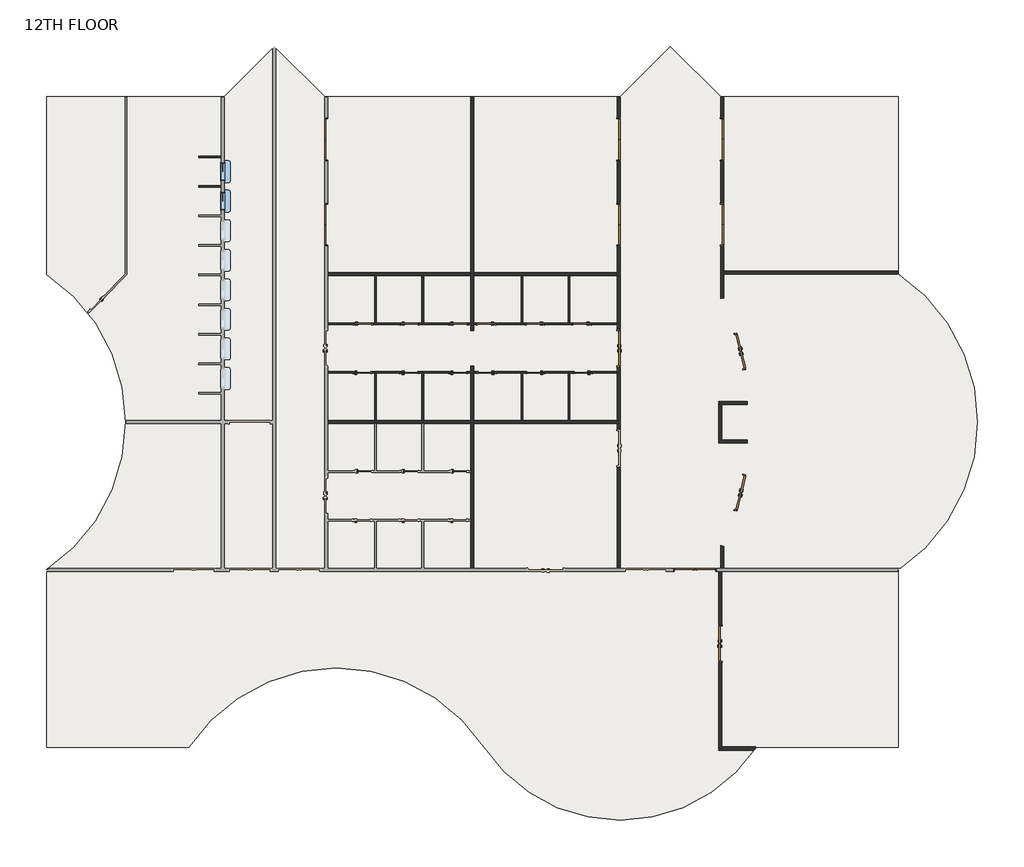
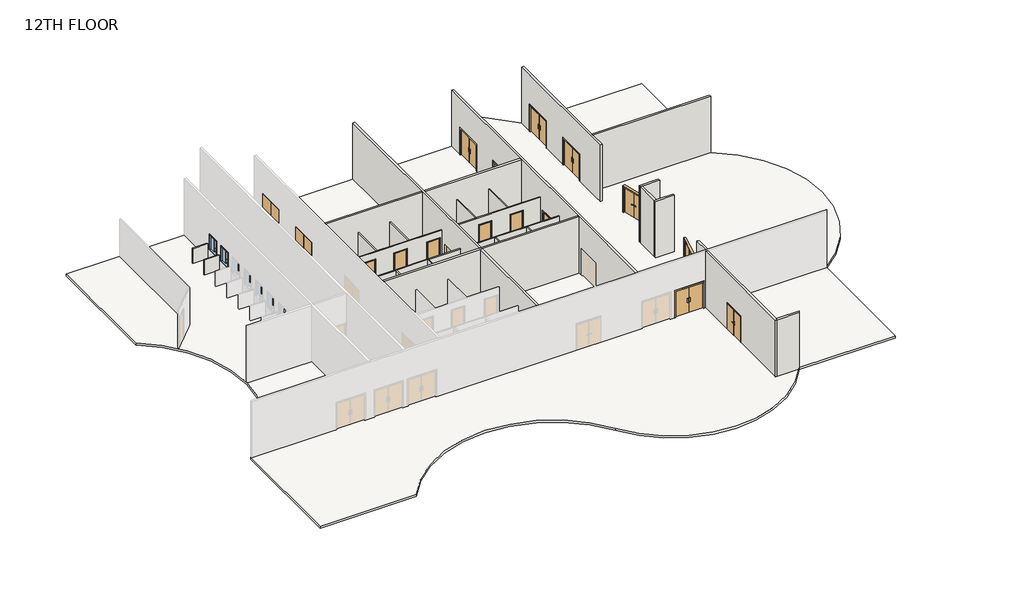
# One storey, part 2 of 2: 26 walls, 23 doors, 2 windows, 1 slab.
"""IFC4 building model written with IfcOpenShell, lengths in millimetres."""

from ifc_helpers import new_model, si_unit, point, frame, frame_2d, origin, place, context, project, spatial, polyline, circle_curve, trimmed, segment, composite_curve, outline, extrude, faceted_brep, transform, mapped, element, save
from ifc_brep_helpers import plane_surface, cylinder_surface, advanced_brep
from components import door_2f250f70, door_df8e76c5, door_0b13e4d9, door_b3a27a16, door_979b1b8c, door_f8b587be, pass_thru_4x3_19d81059

model = new_model("IFC4")

# Units and contexts
model_context = context("Model", 3, world=origin())
ifc_project = project(units=[si_unit("LENGTHUNIT", "METRE", prefix="MILLI")], contexts=[model_context])

# Site, building, storey
site = spatial("IfcSite", under=ifc_project)
building = spatial("IfcBuilding", under=site)
storey = spatial("IfcBuildingStorey", under=building, Name="12TH FLOOR", Elevation=54864.0)

# Doors
placement = place(None, origin())
door_shape = door_2f250f70(model_context)
element("IfcDoor", 1, ObjectType="Door-Passage-Double-Flush : 72\" x 82\"", at=placement, inside=storey, context=model_context, shape_type="MappedRepresentation", body=[
    mapped(door_shape, transform((35885.2621514, 20561.4429091, 54864.0), x_axis=(0.23975975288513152, -0.9708322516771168, 0.0), y_axis=(0.9708322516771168, 0.23975975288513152, 0.0), z_axis=(0.0, 0.0, 1.0))),
])
element("IfcDoor", 2, ObjectType="Door-Passage-Double-Flush : 72\" x 82\"", at=placement, inside=storey, context=model_context, shape_type="MappedRepresentation", body=[
    mapped(door_shape, transform((34887.5089577, 5494.3375, 54864.0), x_axis=(0.0, 1.0, 0.0), y_axis=(-1.0, 0.0, 0.0), z_axis=(0.0, 0.0, 1.0))),
])
door_2_shape = door_df8e76c5(model_context)
element("IfcDoor", 3, ObjectType="Door-Passage-Double-Flush : 72\" x 82\"", at=placement, inside=storey, context=model_context, shape_type="MappedRepresentation", body=[
    mapped(door_2_shape, transform((35886.7385063, 13277.3403388, 54864.0), x_axis=(0.23936619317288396, 0.9709293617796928, 0.0), y_axis=(-0.9709293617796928, 0.23936619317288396, 0.0), z_axis=(0.0, 0.0, 1.0))),
])
element("IfcDoor", 4, ObjectType="Door-Passage-Double-Flush : 72\" x 82\"", at=placement, inside=storey, context=model_context, shape_type="MappedRepresentation", body=[
    mapped(door_2_shape, transform((29628.0650257, 20729.575, 54864.0), x_axis=(0.0, 1.0, 0.0), y_axis=(-1.0, 0.0, 0.0), z_axis=(0.0, 0.0, 1.0))),
])
door_3_shape = door_0b13e4d9(model_context)
element("IfcDoor", 5, ObjectType="Door-Passage-Double-Flush-Dbl_Acting : 84\" x 84\"", at=placement, inside=storey, context=model_context, shape_type="MappedRepresentation", body=[
    mapped(door_3_shape, transform((33564.0300515, 9293.225, 54864.0), x_axis=(-1.0, 0.0, 0.0), y_axis=(0.0, -1.0, 0.0), z_axis=(0.0, 0.0, 1.0))),
])
element("IfcDoor", 6, ObjectType="Door-Passage-Double-Flush-Dbl_Acting : 84\" x 84\"", at=placement, inside=storey, context=model_context, shape_type="MappedRepresentation", body=[
    mapped(door_3_shape, transform((29628.0650257, 31499.175, 54864.0), x_axis=(0.0, 1.0, 0.0), y_axis=(-1.0, 0.0, 0.0), z_axis=(0.0, 0.0, 1.0))),
])
element("IfcDoor", 7, ObjectType="Door-Passage-Double-Flush-Dbl_Acting : 84\" x 84\"", at=placement, inside=storey, context=model_context, shape_type="MappedRepresentation", body=[
    mapped(door_3_shape, transform((29628.0650257, 27101.8, 54864.0), x_axis=(0.0, 1.0, 0.0), y_axis=(-1.0, 0.0, 0.0), z_axis=(0.0, 0.0, 1.0))),
])
door_4_shape = door_b3a27a16(model_context)
element("IfcDoor", 8, ObjectType="Door-Passage-Double-Flush-Dbl_Acting : 84\" x 84\"", at=placement, inside=storey, context=model_context, shape_type="MappedRepresentation", body=[
    mapped(door_4_shape, transform((14556.3400257, 31499.175, 54864.0), x_axis=(0.0, 1.0, 0.0), y_axis=(-1.0, 0.0, 0.0), z_axis=(0.0, 0.0, 1.0))),
])
element("IfcDoor", 9, ObjectType="Door-Passage-Double-Flush-Dbl_Acting : 84\" x 84\"", at=placement, inside=storey, context=model_context, shape_type="MappedRepresentation", body=[
    mapped(door_4_shape, transform((14556.3400257, 27101.8, 54864.0), x_axis=(0.0, 1.0, 0.0), y_axis=(-1.0, 0.0, 0.0), z_axis=(0.0, 0.0, 1.0))),
])
element("IfcDoor", 10, ObjectType="Door-Passage-Double-Flush-Dbl_Acting : 84\" x 84\"", at=placement, inside=storey, context=model_context, shape_type="MappedRepresentation", body=[
    mapped(door_4_shape, transform((34956.2675515, 31499.175, 54864.0), x_axis=(0.0, -1.0, 0.0), y_axis=(1.0, 0.0, 0.0), z_axis=(0.0, 0.0, 1.0))),
])
element("IfcDoor", 11, ObjectType="Door-Passage-Double-Flush-Dbl_Acting : 84\" x 84\"", at=placement, inside=storey, context=model_context, shape_type="MappedRepresentation", body=[
    mapped(door_4_shape, transform((34956.2675515, 27101.8, 54864.0), x_axis=(0.0, -1.0, 0.0), y_axis=(1.0, 0.0, 0.0), z_axis=(0.0, 0.0, 1.0))),
])
door_5_shape = door_979b1b8c(model_context)
element("IfcDoor", 12, ObjectType="Door-Passage-Single-Flush : 36\" x 96\"", at=placement, inside=storey, context=model_context, shape_type="MappedRepresentation", body=[
    mapped(door_5_shape, transform((16456.5775257, 21977.35, 54864.0), x_axis=(1.0, 0.0, 0.0), y_axis=(0.0, 1.0, 0.0), z_axis=(0.0, 0.0, 1.0))),
])
element("IfcDoor", 13, ObjectType="Door-Passage-Single-Flush : 36\" x 96\"", at=placement, inside=storey, context=model_context, shape_type="MappedRepresentation", body=[
    mapped(door_5_shape, transform((18855.2900257, 21977.35, 54864.0), x_axis=(1.0, 0.0, 0.0), y_axis=(0.0, 1.0, 0.0), z_axis=(0.0, 0.0, 1.0))),
])
element("IfcDoor", 14, ObjectType="Door-Passage-Single-Flush : 36\" x 96\"", at=placement, inside=storey, context=model_context, shape_type="MappedRepresentation", body=[
    mapped(door_5_shape, transform((21373.0650257, 21977.35, 54864.0), x_axis=(1.0, 0.0, 0.0), y_axis=(0.0, 1.0, 0.0), z_axis=(0.0, 0.0, 1.0))),
])
element("IfcDoor", 15, ObjectType="Door-Passage-Single-Flush : 36\" x 96\"", at=placement, inside=storey, context=model_context, shape_type="MappedRepresentation", body=[
    mapped(door_5_shape, transform((27778.6275257, 19481.8, 54864.0), x_axis=(-1.0, 0.0, 0.0), y_axis=(0.0, -1.0, 0.0), z_axis=(0.0, 0.0, 1.0))),
])
element("IfcDoor", 16, ObjectType="Door-Passage-Single-Flush : 36\" x 96\"", at=placement, inside=storey, context=model_context, shape_type="MappedRepresentation", body=[
    mapped(door_5_shape, transform((25348.1650257, 19481.8, 54864.0), x_axis=(-1.0, 0.0, 0.0), y_axis=(0.0, -1.0, 0.0), z_axis=(0.0, 0.0, 1.0))),
])
element("IfcDoor", 17, ObjectType="Door-Passage-Single-Flush : 36\" x 96\"", at=placement, inside=storey, context=model_context, shape_type="MappedRepresentation", body=[
    mapped(door_5_shape, transform((22830.3900257, 19481.8, 54864.0), x_axis=(-1.0, 0.0, 0.0), y_axis=(0.0, -1.0, 0.0), z_axis=(0.0, 0.0, 1.0))),
])
door_6_shape = door_f8b587be(model_context)
element("IfcDoor", 18, ObjectType="Door-Passage-Single-Flush : 36\" x 96\"", at=placement, inside=storey, context=model_context, shape_type="MappedRepresentation", body=[
    mapped(door_6_shape, transform((16405.7775257, 19481.8, 54864.0), x_axis=(1.0, 0.0, 0.0), y_axis=(0.0, 1.0, 0.0), z_axis=(0.0, 0.0, 1.0))),
])
element("IfcDoor", 19, ObjectType="Door-Passage-Single-Flush : 36\" x 96\"", at=placement, inside=storey, context=model_context, shape_type="MappedRepresentation", body=[
    mapped(door_6_shape, transform((18836.2400257, 19481.8, 54864.0), x_axis=(1.0, 0.0, 0.0), y_axis=(0.0, 1.0, 0.0), z_axis=(0.0, 0.0, 1.0))),
])
element("IfcDoor", 20, ObjectType="Door-Passage-Single-Flush : 36\" x 96\"", at=placement, inside=storey, context=model_context, shape_type="MappedRepresentation", body=[
    mapped(door_6_shape, transform((21354.0150257, 19481.8, 54864.0), x_axis=(1.0, 0.0, 0.0), y_axis=(0.0, 1.0, 0.0), z_axis=(0.0, 0.0, 1.0))),
])
element("IfcDoor", 21, ObjectType="Door-Passage-Single-Flush : 36\" x 96\"", at=placement, inside=storey, context=model_context, shape_type="MappedRepresentation", body=[
    mapped(door_6_shape, transform((27727.8275257, 21977.35, 54864.0), x_axis=(-1.0, 0.0, 0.0), y_axis=(0.0, -1.0, 0.0), z_axis=(0.0, 0.0, 1.0))),
])
element("IfcDoor", 22, ObjectType="Door-Passage-Single-Flush : 36\" x 96\"", at=placement, inside=storey, context=model_context, shape_type="MappedRepresentation", body=[
    mapped(door_6_shape, transform((25329.1150257, 21977.35, 54864.0), x_axis=(-1.0, 0.0, 0.0), y_axis=(0.0, -1.0, 0.0), z_axis=(0.0, 0.0, 1.0))),
])
element("IfcDoor", 23, ObjectType="Door-Passage-Single-Flush : 36\" x 96\"", at=placement, inside=storey, context=model_context, shape_type="MappedRepresentation", body=[
    mapped(door_6_shape, transform((22811.3400257, 21977.35, 54864.0), x_axis=(-1.0, 0.0, 0.0), y_axis=(0.0, -1.0, 0.0), z_axis=(0.0, 0.0, 1.0))),
])

# Slab
element("IfcSlab", 24, ObjectType="ARCHITECTURAL FINISH FLOOR", at=placement, inside=storey, context=model_context, shape_type="SweptSolid", body=[
    extrude(outline(composite_curve([segment(polyline([(9294.3144878, 33696.275), (11885.8887629, 36287.8492751), (14477.463038, 33696.275), (29706.9420135, 33696.275), (32298.5162886, 36287.8492751), (34890.0905637, 33696.275), (44041.5300515, 33696.275), (44041.5300515, 24546.3877275)]), True, "CONTINUOUS"), segment(trimmed(circle_curve(frame_2d((38974.293871, 16919.575)), 9156.7), [point((44041.5300515, 24546.3877275))], [point((44041.5300515, 9292.7622725))], False, "CARTESIAN"), True, "CONTINUOUS"), segment(polyline([(44041.5300515, 9292.7622725), (44041.5300515, 142.875), (36720.4425102, 142.875)]), True, "CONTINUOUS"), segment(trimmed(circle_curve(frame_2d((29712.2025257, 4799.7966199)), 8414.4130309), [point((36720.4425102, 142.875))], [point((22700.1916667, 148.5548109))], False, "CARTESIAN"), True, "CONTINUOUS"), segment(trimmed(circle_curve(frame_2d((15090.775, -4898.9611805)), 9131.3), [point((22700.1916667, 148.5548109))], [point((7477.593824, 142.875))], True, "CARTESIAN"), True, "CONTINUOUS"), segment(polyline([(7477.593824, 142.875), (142.875, 142.875), (142.875, 9306.393824)]), True, "CONTINUOUS"), segment(trimmed(circle_curve(frame_2d((-4898.9611805, 16919.575)), 9131.3), [point((142.875, 9306.393824))], [point((142.875, 24532.756176))], True, "CARTESIAN"), True, "CONTINUOUS"), segment(polyline([(142.875, 24532.756176), (142.875, 33696.275), (9294.3144878, 33696.275)]), True, "CONTINUOUS")], self_intersect=False)), frame((0.0, 0.0, 54711.6), z_axis=(0.0, 0.0, 1.0), x_axis=(1.0, 0.0, 0.0)), (0.0, 0.0, 1.0), 171.45),
])

# Walls
element("IfcWall", 25, ObjectType="SYR_INT_ONE_HOUR", at=placement, inside=storey, context=model_context, shape_type="SweptSolid", body=[
    extrude(outline(polyline([(17066.1775257, 22023.3875), (17066.1775257, 24461.7875), (17145.5525257, 24461.7875), (17145.5525257, 22023.3875), (17066.1775257, 22023.3875)])), frame((0.0, 0.0, 54864.0), z_axis=(0.0, 0.0, 1.0), x_axis=(1.0, 0.0, 0.0)), (0.0, 0.0, 1.0), 3048.0),
])
element("IfcWall", 26, ObjectType="SYR_INT_ONE_HOUR", at=placement, inside=storey, context=model_context, shape_type="SweptSolid", body=[
    extrude(outline(polyline([(19576.0150257, 19435.7625), (19576.0150257, 16997.3625), (19496.6400257, 16997.3625), (19496.6400257, 19435.7625), (19576.0150257, 19435.7625)])), frame((0.0, 0.0, 54864.0), z_axis=(0.0, 0.0, 1.0), x_axis=(1.0, 0.0, 0.0)), (0.0, 0.0, 1.0), 3048.0),
])
element("IfcWall", 27, ObjectType="SYR_INT_ONE_HOUR", at=placement, inside=storey, context=model_context, shape_type="Brep", body=[
    faceted_brep([(14627.7775257, 22023.3875, 57912.0), (17066.1775257, 22023.3875, 57912.0), (17145.5525257, 22023.3875, 57912.0), (19496.6400257, 22023.3875, 57912.0), (19576.0150257, 22023.3875, 57912.0), (22014.4150257, 22023.3875, 57912.0), (22014.4150257, 22023.3875, 54864.0), (21862.0150257, 22023.3875, 54864.0), (21862.0150257, 22023.3875, 57334.15), (20884.1150257, 22023.3875, 57334.15), (20884.1150257, 22023.3875, 54864.0), (19576.0150257, 22023.3875, 54864.0), (19496.6400257, 22023.3875, 54864.0), (19344.2400257, 22023.3875, 54864.0), (19344.2400257, 22023.3875, 57334.15), (18366.3400257, 22023.3875, 57334.15), (18366.3400257, 22023.3875, 54864.0), (17145.5525257, 22023.3875, 54864.0), (17066.1775257, 22023.3875, 54864.0), (16945.5275257, 22023.3875, 54864.0), (16945.5275257, 22023.3875, 57334.15), (15967.6275257, 22023.3875, 57334.15), (15967.6275257, 22023.3875, 54864.0), (14627.7775257, 22023.3875, 54864.0), (22014.4150257, 21944.0125, 57912.0), (14627.7775257, 21944.0125, 57912.0), (14627.7775257, 21944.0125, 54864.0), (15967.6275257, 21944.0125, 54864.0), (15967.6275257, 21944.0125, 57334.15), (16945.5275257, 21944.0125, 57334.15), (16945.5275257, 21944.0125, 54864.0), (18366.3400257, 21944.0125, 54864.0), (18366.3400257, 21944.0125, 57334.15), (19344.2400257, 21944.0125, 57334.15), (19344.2400257, 21944.0125, 54864.0), (20884.1150257, 21944.0125, 54864.0), (20884.1150257, 21944.0125, 57334.15), (21862.0150257, 21944.0125, 57334.15), (21862.0150257, 21944.0125, 54864.0), (22014.4150257, 21944.0125, 54864.0)], [[[0, 1, 2, 3, 4, 5, 6, 7, 8, 9, 10, 11, 12, 13, 14, 15, 16, 17, 18, 19, 20, 21, 22, 23]], [[24, 25, 26, 27, 28, 29, 30, 31, 32, 33, 34, 35, 36, 37, 38, 39]], [[23, 22, 27, 26]], [[30, 19, 18, 17, 16, 31]], [[34, 13, 12, 11, 10, 35]], [[6, 39, 38, 7]], [[5, 4, 3, 2, 1, 0, 25, 24]], [[29, 20, 19, 30]], [[20, 29, 28, 21]], [[21, 28, 27, 22]], [[14, 13, 34, 33]], [[15, 14, 33, 32]], [[16, 15, 32, 31]], [[37, 8, 7, 38]], [[8, 37, 36, 9]], [[9, 36, 35, 10]], [[0, 23, 26, 25]], [[6, 5, 24, 39]]]),
])
element("IfcWall", 28, ObjectType="SYR_INT_ONE_HOUR", at=placement, inside=storey, context=model_context, shape_type="Brep", body=[
    faceted_brep([(14627.7775257, 19515.1375, 57912.0), (22014.4150257, 19515.1375, 57912.0), (22014.4150257, 19515.1375, 54864.0), (21842.9650257, 19515.1375, 54864.0), (21842.9650257, 19515.1375, 57334.15), (20865.0650257, 19515.1375, 57334.15), (20865.0650257, 19515.1375, 54864.0), (19325.1900257, 19515.1375, 54864.0), (19325.1900257, 19515.1375, 57334.15), (18347.2900257, 19515.1375, 57334.15), (18347.2900257, 19515.1375, 54864.0), (16894.7275257, 19515.1375, 54864.0), (16894.7275257, 19515.1375, 57334.15), (15916.8275257, 19515.1375, 57334.15), (15916.8275257, 19515.1375, 54864.0), (14627.7775257, 19515.1375, 54864.0), (22014.4150257, 19435.7625, 57912.0), (19576.0150257, 19435.7625, 57912.0), (19496.6400257, 19435.7625, 57912.0), (17145.5525257, 19435.7625, 57912.0), (17066.1775257, 19435.7625, 57912.0), (14627.7775257, 19435.7625, 57912.0), (14627.7775257, 19435.7625, 54864.0), (15916.8275257, 19435.7625, 54864.0), (15916.8275257, 19435.7625, 57334.15), (16894.7275257, 19435.7625, 57334.15), (16894.7275257, 19435.7625, 54864.0), (17066.1775257, 19435.7625, 54864.0), (17145.5525257, 19435.7625, 54864.0), (18347.2900257, 19435.7625, 54864.0), (18347.2900257, 19435.7625, 57334.15), (19325.1900257, 19435.7625, 57334.15), (19325.1900257, 19435.7625, 54864.0), (19496.6400257, 19435.7625, 54864.0), (19576.0150257, 19435.7625, 54864.0), (20865.0650257, 19435.7625, 54864.0), (20865.0650257, 19435.7625, 57334.15), (21842.9650257, 19435.7625, 57334.15), (21842.9650257, 19435.7625, 54864.0), (22014.4150257, 19435.7625, 54864.0)], [[[0, 1, 2, 3, 4, 5, 6, 7, 8, 9, 10, 11, 12, 13, 14, 15]], [[16, 17, 18, 19, 20, 21, 22, 23, 24, 25, 26, 27, 28, 29, 30, 31, 32, 33, 34, 35, 36, 37, 38, 39]], [[15, 14, 23, 22]], [[26, 11, 10, 29, 28, 27]], [[32, 7, 6, 35, 34, 33]], [[2, 39, 38, 3]], [[1, 0, 21, 20, 19, 18, 17, 16]], [[25, 12, 11, 26]], [[12, 25, 24, 13]], [[13, 24, 23, 14]], [[31, 8, 7, 32]], [[8, 31, 30, 9]], [[9, 30, 29, 10]], [[37, 4, 3, 38]], [[4, 37, 36, 5]], [[5, 36, 35, 6]], [[0, 15, 22, 21]], [[2, 1, 16, 39]]]),
])
element("IfcWall", 29, ObjectType="SYR_INT_ONE_HOUR", at=placement, inside=storey, context=model_context, shape_type="SweptSolid", body=[
    extrude(outline(polyline([(17066.1775257, 16997.3625), (17066.1775257, 19435.7625), (17145.5525257, 19435.7625), (17145.5525257, 16997.3625), (17066.1775257, 16997.3625)])), frame((0.0, 0.0, 54864.0), z_axis=(0.0, 0.0, 1.0), x_axis=(1.0, 0.0, 0.0)), (0.0, 0.0, 1.0), 3048.0),
])
element("IfcWall", 30, ObjectType="SYR_INT_ONE_HOUR", at=placement, inside=storey, context=model_context, shape_type="SweptSolid", body=[
    extrude(outline(polyline([(19576.0150257, 24461.7875), (19576.0150257, 22023.3875), (19496.6400257, 22023.3875), (19496.6400257, 24461.7875), (19576.0150257, 24461.7875)])), frame((0.0, 0.0, 54864.0), z_axis=(0.0, 0.0, 1.0), x_axis=(1.0, 0.0, 0.0)), (0.0, 0.0, 1.0), 3048.0),
])
element("IfcWall", 31, ObjectType="SYR_INT_ONE_HOUR", at=placement, inside=storey, context=model_context, shape_type="SweptSolid", body=[
    extrude(outline(polyline([(7979.2710938, 29111.575), (9144.0, 29111.575), (9144.0, 29032.2), (7979.2710938, 29032.2), (7979.2710938, 29111.575)])), frame((0.0, 0.0, 54864.0), z_axis=(0.0, 0.0, 1.0), x_axis=(1.0, 0.0, 0.0)), (0.0, 0.0, 1.0), 1219.2),
])
element("IfcWall", 32, ObjectType="SYR_INT_ONE_HOUR", at=placement, inside=storey, context=model_context, shape_type="SweptSolid", body=[
    extrude(outline(polyline([(7979.2710938, 30635.575), (9144.0, 30635.575), (9144.0, 30556.2), (7979.2710938, 30556.2), (7979.2710938, 30635.575)])), frame((0.0, 0.0, 54864.0), z_axis=(0.0, 0.0, 1.0), x_axis=(1.0, 0.0, 0.0)), (0.0, 0.0, 1.0), 1219.2),
])
element("IfcWall", 33, ObjectType="SYR_INT_ONE_HOUR", at=placement, inside=storey, context=model_context, shape_type="SweptSolid", body=[
    extrude(outline(polyline([(27038.8525257, 22023.3875), (27038.8525257, 24461.7875), (27118.2275257, 24461.7875), (27118.2275257, 22023.3875), (27038.8525257, 22023.3875)])), frame((0.0, 0.0, 54864.0), z_axis=(0.0, 0.0, 1.0), x_axis=(1.0, 0.0, 0.0)), (0.0, 0.0, 1.0), 3048.0),
])
element("IfcWall", 34, ObjectType="SYR_INT_ONE_HOUR", at=placement, inside=storey, context=model_context, shape_type="SweptSolid", body=[
    extrude(outline(polyline([(24687.7650257, 19435.7625), (24687.7650257, 16997.3625), (24608.3900257, 16997.3625), (24608.3900257, 19435.7625), (24687.7650257, 19435.7625)])), frame((0.0, 0.0, 54864.0), z_axis=(0.0, 0.0, 1.0), x_axis=(1.0, 0.0, 0.0)), (0.0, 0.0, 1.0), 3048.0),
])
element("IfcWall", 35, ObjectType="SYR_INT_ONE_HOUR", at=placement, inside=storey, context=model_context, shape_type="Brep", body=[
    faceted_brep([(29556.6275257, 21944.0125, 57912.0), (22169.9900257, 21944.0125, 57912.0), (22169.9900257, 21944.0125, 54864.0), (22322.3900257, 21944.0125, 54864.0), (22322.3900257, 21944.0125, 57334.15), (23300.2900257, 21944.0125, 57334.15), (23300.2900257, 21944.0125, 54864.0), (24840.1650257, 21944.0125, 54864.0), (24840.1650257, 21944.0125, 57334.15), (25818.0650257, 21944.0125, 57334.15), (25818.0650257, 21944.0125, 54864.0), (27238.8775257, 21944.0125, 54864.0), (27238.8775257, 21944.0125, 57334.15), (28216.7775257, 21944.0125, 57334.15), (28216.7775257, 21944.0125, 54864.0), (29556.6275257, 21944.0125, 54864.0), (22169.9900257, 22023.3875, 57912.0), (24608.3900257, 22023.3875, 57912.0), (24687.7650257, 22023.3875, 57912.0), (27038.8525257, 22023.3875, 57912.0), (27118.2275257, 22023.3875, 57912.0), (29556.6275257, 22023.3875, 57912.0), (29556.6275257, 22023.3875, 54864.0), (28216.7775257, 22023.3875, 54864.0), (28216.7775257, 22023.3875, 57334.15), (27238.8775257, 22023.3875, 57334.15), (27238.8775257, 22023.3875, 54864.0), (27118.2275257, 22023.3875, 54864.0), (27038.8525257, 22023.3875, 54864.0), (25818.0650257, 22023.3875, 54864.0), (25818.0650257, 22023.3875, 57334.15), (24840.1650257, 22023.3875, 57334.15), (24840.1650257, 22023.3875, 54864.0), (24687.7650257, 22023.3875, 54864.0), (24608.3900257, 22023.3875, 54864.0), (23300.2900257, 22023.3875, 54864.0), (23300.2900257, 22023.3875, 57334.15), (22322.3900257, 22023.3875, 57334.15), (22322.3900257, 22023.3875, 54864.0), (22169.9900257, 22023.3875, 54864.0)], [[[0, 1, 2, 3, 4, 5, 6, 7, 8, 9, 10, 11, 12, 13, 14, 15]], [[16, 17, 18, 19, 20, 21, 22, 23, 24, 25, 26, 27, 28, 29, 30, 31, 32, 33, 34, 35, 36, 37, 38, 39]], [[15, 14, 23, 22]], [[26, 11, 10, 29, 28, 27]], [[32, 7, 6, 35, 34, 33]], [[2, 39, 38, 3]], [[1, 0, 21, 20, 19, 18, 17, 16]], [[25, 12, 11, 26]], [[12, 25, 24, 13]], [[13, 24, 23, 14]], [[8, 7, 32, 31]], [[9, 8, 31, 30]], [[10, 9, 30, 29]], [[37, 4, 3, 38]], [[4, 37, 36, 5]], [[5, 36, 35, 6]], [[0, 15, 22, 21]], [[2, 1, 16, 39]]]),
])
element("IfcWall", 36, ObjectType="SYR_INT_ONE_HOUR", at=placement, inside=storey, context=model_context, shape_type="Brep", body=[
    faceted_brep([(29556.6275257, 19435.7625, 57912.0), (27118.2275257, 19435.7625, 57912.0), (27038.8525257, 19435.7625, 57912.0), (24687.7650257, 19435.7625, 57912.0), (24608.3900257, 19435.7625, 57912.0), (22169.9900257, 19435.7625, 57912.0), (22169.9900257, 19435.7625, 54864.0), (22341.4400257, 19435.7625, 54864.0), (22341.4400257, 19435.7625, 57334.15), (23319.3400257, 19435.7625, 57334.15), (23319.3400257, 19435.7625, 54864.0), (24608.3900257, 19435.7625, 54864.0), (24687.7650257, 19435.7625, 54864.0), (24859.2150257, 19435.7625, 54864.0), (24859.2150257, 19435.7625, 57334.15), (25837.1150257, 19435.7625, 57334.15), (25837.1150257, 19435.7625, 54864.0), (27038.8525257, 19435.7625, 54864.0), (27118.2275257, 19435.7625, 54864.0), (27289.6775257, 19435.7625, 54864.0), (27289.6775257, 19435.7625, 57334.15), (28267.5775257, 19435.7625, 57334.15), (28267.5775257, 19435.7625, 54864.0), (29556.6275257, 19435.7625, 54864.0), (22169.9900257, 19515.1375, 57912.0), (29556.6275257, 19515.1375, 57912.0), (29556.6275257, 19515.1375, 54864.0), (28267.5775257, 19515.1375, 54864.0), (28267.5775257, 19515.1375, 57334.15), (27289.6775257, 19515.1375, 57334.15), (27289.6775257, 19515.1375, 54864.0), (25837.1150257, 19515.1375, 54864.0), (25837.1150257, 19515.1375, 57334.15), (24859.2150257, 19515.1375, 57334.15), (24859.2150257, 19515.1375, 54864.0), (23319.3400257, 19515.1375, 54864.0), (23319.3400257, 19515.1375, 57334.15), (22341.4400257, 19515.1375, 57334.15), (22341.4400257, 19515.1375, 54864.0), (22169.9900257, 19515.1375, 54864.0)], [[[0, 1, 2, 3, 4, 5, 6, 7, 8, 9, 10, 11, 12, 13, 14, 15, 16, 17, 18, 19, 20, 21, 22, 23]], [[24, 25, 26, 27, 28, 29, 30, 31, 32, 33, 34, 35, 36, 37, 38, 39]], [[23, 22, 27, 26]], [[30, 19, 18, 17, 16, 31]], [[34, 13, 12, 11, 10, 35]], [[6, 39, 38, 7]], [[5, 4, 3, 2, 1, 0, 25, 24]], [[29, 20, 19, 30]], [[20, 29, 28, 21]], [[21, 28, 27, 22]], [[33, 14, 13, 34]], [[14, 33, 32, 15]], [[15, 32, 31, 16]], [[37, 8, 7, 38]], [[8, 37, 36, 9]], [[9, 36, 35, 10]], [[0, 23, 26, 25]], [[6, 5, 24, 39]]]),
])
element("IfcWall", 37, ObjectType="SYR_INT_ONE_HOUR", at=placement, inside=storey, context=model_context, shape_type="SweptSolid", body=[
    extrude(outline(polyline([(27038.8525257, 16997.3625), (27038.8525257, 19435.7625), (27118.2275257, 19435.7625), (27118.2275257, 16997.3625), (27038.8525257, 16997.3625)])), frame((0.0, 0.0, 54864.0), z_axis=(0.0, 0.0, 1.0), x_axis=(1.0, 0.0, 0.0)), (0.0, 0.0, 1.0), 3048.0),
])
element("IfcWall", 38, ObjectType="SYR_INT_ONE_HOUR", at=placement, inside=storey, context=model_context, shape_type="SweptSolid", body=[
    extrude(outline(polyline([(24687.7650257, 24461.7875), (24687.7650257, 22023.3875), (24608.3900257, 22023.3875), (24608.3900257, 24461.7875), (24687.7650257, 24461.7875)])), frame((0.0, 0.0, 54864.0), z_axis=(0.0, 0.0, 1.0), x_axis=(1.0, 0.0, 0.0)), (0.0, 0.0, 1.0), 3048.0),
])
element("IfcWall", 39, ObjectType="SYR_INT_TWO_HOUR", at=placement, inside=storey, context=model_context, shape_type="Brep", body=[
    faceted_brep([(34803.3714577, 0.0, 59436.0), (34803.3714577, 9221.7875, 59436.0), (34803.3714577, 9221.7875, 54864.0), (34803.3714577, 6459.5375, 54864.0), (34803.3714577, 6459.5375, 57048.4), (34803.3714577, 4529.1375, 57048.4), (34803.3714577, 4529.1375, 54864.0), (34803.3714577, 0.0, 54864.0), (34958.9464577, 9221.7875, 59436.0), (34958.9464577, 155.575, 59436.0), (34958.9464577, 0.0, 59436.0), (34958.9464577, 0.0, 54864.0), (34958.9464577, 155.575, 54864.0), (34958.9464577, 4529.1375, 54864.0), (34958.9464577, 4529.1375, 57048.4), (34958.9464577, 6459.5375, 57048.4), (34958.9464577, 6459.5375, 54864.0), (34958.9464577, 9221.7875, 54864.0)], [[[0, 1, 2, 3, 4, 5, 6, 7]], [[8, 9, 10, 11, 12, 13, 14, 15, 16, 17]], [[2, 17, 16, 3]], [[11, 7, 6, 13, 12]], [[1, 0, 10, 9, 8]], [[2, 1, 8, 17]], [[0, 7, 11, 10]], [[15, 4, 3, 16]], [[4, 15, 14, 5]], [[5, 14, 13, 6]]]),
])
element("IfcWall", 40, ObjectType="SYR_INT_TWO_HOUR", at=placement, inside=storey, context=model_context, shape_type="SweptSolid", body=[
    extrude(outline(composite_curve([segment(polyline([(36607.9065696, 0.0), (34958.9464577, 0.0), (34958.9464577, 155.575), (36713.6300515, 155.575)]), True, "CONTINUOUS"), segment(trimmed(circle_curve(frame_2d((29712.2025257, 4799.7966199)), 8401.7130309), [point((36713.6300515, 155.575))], [point((36607.9065696, 0.0))], False, "CARTESIAN"), True, "CONTINUOUS")], self_intersect=False)), frame((0.0, 0.0, 54864.0), z_axis=(0.0, 0.0, 1.0), x_axis=(1.0, 0.0, 0.0)), (0.0, 0.0, 1.0), 4572.0),
])
element("IfcWall", 41, ObjectType="SYR_INT_TWO_HOUR", at=placement, inside=storey, context=model_context, shape_type="Brep", body=[
    faceted_brep([(29556.6275257, 9377.3625, 59436.0), (29556.6275257, 16841.7875, 59436.0), (29556.6275257, 16997.3625, 59436.0), (29556.6275257, 24461.7875, 59436.0), (29556.6275257, 24617.3625, 59436.0), (29556.6275257, 33683.575, 59436.0), (29556.6275257, 33683.575, 54864.0), (29556.6275257, 32616.775, 54864.0), (29556.6275257, 32616.775, 57099.2), (29556.6275257, 30381.575, 57099.2), (29556.6275257, 30381.575, 54864.0), (29556.6275257, 28219.4, 54864.0), (29556.6275257, 28219.4, 57099.2), (29556.6275257, 25984.2, 57099.2), (29556.6275257, 25984.2, 54864.0), (29556.6275257, 24617.3625, 54864.0), (29556.6275257, 24461.7875, 54864.0), (29556.6275257, 22023.3875, 54864.0), (29556.6275257, 21944.0125, 54864.0), (29556.6275257, 21694.775, 54864.0), (29556.6275257, 21694.775, 57048.4), (29556.6275257, 19764.375, 57048.4), (29556.6275257, 19764.375, 54864.0), (29556.6275257, 19515.1375, 54864.0), (29556.6275257, 19435.7625, 54864.0), (29556.6275257, 16997.3625, 54864.0), (29556.6275257, 16841.7875, 54864.0), (29556.6275257, 16536.9875, 54864.0), (29556.6275257, 16536.9875, 57048.4), (29556.6275257, 14606.5875, 57048.4), (29556.6275257, 14606.5875, 54864.0), (29556.6275257, 9377.3625, 54864.0), (29712.2025257, 33683.575, 59436.0), (29712.2025257, 9377.3625, 59436.0), (29712.2025257, 9377.3625, 54864.0), (29712.2025257, 14606.5875, 54864.0), (29712.2025257, 14606.5875, 57048.4), (29712.2025257, 16536.9875, 57048.4), (29712.2025257, 16536.9875, 54864.0), (29712.2025257, 19764.375, 54864.0), (29712.2025257, 19764.375, 57048.4), (29712.2025257, 21694.775, 57048.4), (29712.2025257, 21694.775, 54864.0), (29712.2025257, 25984.2, 54864.0), (29712.2025257, 25984.2, 57099.2), (29712.2025257, 28219.4, 57099.2), (29712.2025257, 28219.4, 54864.0), (29712.2025257, 30381.575, 54864.0), (29712.2025257, 30381.575, 57099.2), (29712.2025257, 32616.775, 57099.2), (29712.2025257, 32616.775, 54864.0), (29712.2025257, 33683.575, 54864.0)], [[[0, 1, 2, 3, 4, 5, 6, 7, 8, 9, 10, 11, 12, 13, 14, 15, 16, 17, 18, 19, 20, 21, 22, 23, 24, 25, 26, 27, 28, 29, 30, 31]], [[32, 33, 34, 35, 36, 37, 38, 39, 40, 41, 42, 43, 44, 45, 46, 47, 48, 49, 50, 51]], [[34, 31, 30, 35]], [[42, 19, 18, 17, 16, 15, 14, 43]], [[22, 39, 38, 27, 26, 25, 24, 23]], [[46, 11, 10, 47]], [[7, 6, 51, 50]], [[5, 4, 3, 2, 1, 0, 33, 32]], [[0, 31, 34, 33]], [[41, 20, 19, 42]], [[20, 41, 40, 21]], [[21, 40, 39, 22]], [[45, 12, 11, 46]], [[12, 45, 44, 13]], [[13, 44, 43, 14]], [[49, 8, 7, 50]], [[8, 49, 48, 9]], [[9, 48, 47, 10]], [[29, 36, 35, 30]], [[36, 29, 28, 37]], [[37, 28, 27, 38]], [[6, 5, 32, 51]]]),
])
element("IfcWall", 42, ObjectType="SYR_INT_TWO_HOUR", at=placement, inside=storey, context=model_context, shape_type="Brep", body=[
    faceted_brep([(34884.8300515, 23286.7810764, 59436.0), (34884.8300515, 33683.575, 59436.0), (34884.8300515, 33683.575, 54864.0), (34884.8300515, 32616.775, 54864.0), (34884.8300515, 32616.775, 57099.2), (34884.8300515, 30381.575, 57099.2), (34884.8300515, 30381.575, 54864.0), (34884.8300515, 28219.4, 54864.0), (34884.8300515, 28219.4, 57099.2), (34884.8300515, 25984.2, 57099.2), (34884.8300515, 25984.2, 54864.0), (34884.8300515, 23286.7810764, 54864.0), (35040.4050515, 33683.575, 59436.0), (35040.4050515, 24695.15, 59436.0), (35040.4050515, 24539.575, 59436.0), (35040.4050515, 23320.9573614, 59436.0), (35040.4050515, 23320.9573614, 54864.0), (35040.4050515, 24539.575, 54864.0), (35040.4050515, 24695.15, 54864.0), (35040.4050515, 25984.2, 54864.0), (35040.4050515, 25984.2, 57099.2), (35040.4050515, 28219.4, 57099.2), (35040.4050515, 28219.4, 54864.0), (35040.4050515, 30381.575, 54864.0), (35040.4050515, 30381.575, 57099.2), (35040.4050515, 32616.775, 57099.2), (35040.4050515, 32616.775, 54864.0), (35040.4050515, 33683.575, 54864.0)], [[[0, 1, 2, 3, 4, 5, 6, 7, 8, 9, 10, 11]], [[12, 13, 14, 15, 16, 17, 18, 19, 20, 21, 22, 23, 24, 25, 26, 27]], [[16, 11, 10, 19, 18, 17]], [[3, 2, 27, 26]], [[6, 23, 22, 7]], [[1, 0, 15, 14, 13, 12]], [[0, 11, 16, 15]], [[5, 24, 23, 6]], [[24, 5, 4, 25]], [[25, 4, 3, 26]], [[9, 20, 19, 10]], [[20, 9, 8, 21]], [[21, 8, 7, 22]], [[2, 1, 12, 27]]]),
])
element("IfcWall", 43, ObjectType="SYR_INT_TWO_HOUR", at=placement, inside=storey, context=model_context, shape_type="Brep", body=[
    faceted_brep([(14627.7775257, 16841.7875, 54864.0), (17066.1775257, 16841.7875, 54864.0), (17145.5525257, 16841.7875, 54864.0), (19496.6400257, 16841.7875, 54864.0), (19576.0150257, 16841.7875, 54864.0), (22014.4150257, 16841.7875, 54864.0), (22169.9900257, 16841.7875, 54864.0), (29556.6275257, 16841.7875, 54864.0), (29556.6275257, 16841.7875, 59436.0), (22169.9900257, 16841.7875, 59436.0), (22014.4150257, 16841.7875, 59436.0), (14627.7775257, 16841.7875, 59436.0), (14627.7775257, 16997.3625, 54864.0), (14627.7775257, 16997.3625, 59436.0), (22014.4150257, 16997.3625, 59436.0), (22169.9900257, 16997.3625, 59436.0), (29556.6275257, 16997.3625, 59436.0), (29556.6275257, 16997.3625, 54864.0), (27118.2275257, 16997.3625, 54864.0), (27038.8525257, 16997.3625, 54864.0), (24687.7650257, 16997.3625, 54864.0), (24608.3900257, 16997.3625, 54864.0), (22169.9900257, 16997.3625, 54864.0), (22014.4150257, 16997.3625, 54864.0), (19576.0150257, 16997.3625, 54864.0), (19496.6400257, 16997.3625, 54864.0), (17145.5525257, 16997.3625, 54864.0), (17066.1775257, 16997.3625, 54864.0)], [[[0, 1, 2, 3, 4, 5, 6, 7, 8, 9, 10, 11]], [[12, 13, 14, 15, 16, 17, 18, 19, 20, 21, 22, 23, 24, 25, 26, 27]], [[7, 6, 5, 4, 3, 2, 1, 0, 12, 27, 26, 25, 24, 23, 22, 21, 20, 19, 18, 17]], [[11, 10, 9, 8, 16, 15, 14, 13]], [[0, 11, 13, 12]], [[8, 7, 17, 16]]]),
])
element("IfcWall", 44, ObjectType="SYR_INT_TWO_HOUR", at=placement, inside=storey, context=model_context, shape_type="Brep", body=[
    faceted_brep([(22169.9900257, 9377.3625, 59436.0), (22169.9900257, 9377.3625, 54864.0), (22169.9900257, 16841.7875, 54864.0), (22169.9900257, 16841.7875, 59436.0), (22014.4150257, 9377.3625, 54864.0), (22014.4150257, 9377.3625, 59436.0), (22014.4150257, 16841.7875, 59436.0), (22014.4150257, 16841.7875, 54864.0), (22014.4150257, 14403.3875, 54864.0), (22014.4150257, 14324.0125, 54864.0), (22014.4150257, 11895.1375, 54864.0), (22014.4150257, 11815.7625, 54864.0)], [[[0, 1, 2, 3]], [[4, 5, 6, 7, 8, 9, 10, 11]], [[1, 4, 11, 10, 9, 8, 7, 2]], [[5, 0, 3, 6]], [[1, 0, 5, 4]], [[3, 2, 7, 6]]]),
    faceted_brep([(22169.9900257, 19815.175, 54864.0), (22169.9900257, 19815.175, 56997.6), (22169.9900257, 21643.975, 56997.6), (22169.9900257, 21643.975, 54864.0), (22169.9900257, 21944.0125, 54864.0), (22169.9900257, 22023.3875, 54864.0), (22169.9900257, 24461.7875, 54864.0), (22169.9900257, 24617.3625, 54864.0), (22169.9900257, 33683.575, 54864.0), (22169.9900257, 33683.575, 59436.0), (22169.9900257, 24617.3625, 59436.0), (22169.9900257, 24461.7875, 59436.0), (22169.9900257, 16997.3625, 59436.0), (22169.9900257, 16997.3625, 54864.0), (22169.9900257, 19435.7625, 54864.0), (22169.9900257, 19515.1375, 54864.0), (22014.4150257, 19815.175, 56997.6), (22014.4150257, 19815.175, 54864.0), (22014.4150257, 19515.1375, 54864.0), (22014.4150257, 19435.7625, 54864.0), (22014.4150257, 16997.3625, 54864.0), (22014.4150257, 16997.3625, 59436.0), (22014.4150257, 24461.7875, 59436.0), (22014.4150257, 24617.3625, 59436.0), (22014.4150257, 33683.575, 59436.0), (22014.4150257, 33683.575, 54864.0), (22014.4150257, 24617.3625, 54864.0), (22014.4150257, 24461.7875, 54864.0), (22014.4150257, 22023.3875, 54864.0), (22014.4150257, 21944.0125, 54864.0), (22014.4150257, 21643.975, 54864.0), (22014.4150257, 21643.975, 56997.6)], [[[0, 1, 2, 3, 4, 5, 6, 7, 8, 9, 10, 11, 12, 13, 14, 15]], [[16, 17, 18, 19, 20, 21, 22, 23, 24, 25, 26, 27, 28, 29, 30, 31]], [[17, 0, 15, 14, 13, 20, 19, 18]], [[3, 30, 29, 28, 27, 26, 25, 8, 7, 6, 5, 4]], [[9, 24, 23, 22, 21, 12, 11, 10]], [[13, 12, 21, 20]], [[17, 16, 1, 0]], [[31, 30, 3, 2]], [[16, 31, 2, 1]], [[9, 8, 25, 24]]]),
])
element("IfcWall", 45, ObjectType="SYR_INT_TWO_HOUR", at=placement, inside=storey, context=model_context, shape_type="Brep", body=[
    faceted_brep([(14627.7775257, 24461.7875, 59436.0), (14627.7775257, 24461.7875, 54864.0), (17066.1775257, 24461.7875, 54864.0), (17145.5525257, 24461.7875, 54864.0), (19496.6400257, 24461.7875, 54864.0), (19576.0150257, 24461.7875, 54864.0), (22014.4150257, 24461.7875, 54864.0), (22014.4150257, 24461.7875, 59436.0), (14627.7775257, 24617.3625, 54864.0), (14627.7775257, 24617.3625, 59436.0), (22014.4150257, 24617.3625, 59436.0), (22014.4150257, 24617.3625, 54864.0)], [[[0, 1, 2, 3, 4, 5, 6, 7]], [[8, 9, 10, 11]], [[1, 8, 11, 6, 5, 4, 3, 2]], [[9, 0, 7, 10]], [[1, 0, 9, 8]], [[7, 6, 11, 10]]]),
    faceted_brep([(29556.6275257, 24461.7875, 54864.0), (29556.6275257, 24461.7875, 59436.0), (22169.9900257, 24461.7875, 59436.0), (22169.9900257, 24461.7875, 54864.0), (24608.3900257, 24461.7875, 54864.0), (24687.7650257, 24461.7875, 54864.0), (27038.8525257, 24461.7875, 54864.0), (27118.2275257, 24461.7875, 54864.0), (29556.6275257, 24617.3625, 59436.0), (29556.6275257, 24617.3625, 54864.0), (22169.9900257, 24617.3625, 54864.0), (22169.9900257, 24617.3625, 59436.0)], [[[0, 1, 2, 3, 4, 5, 6, 7]], [[8, 9, 10, 11]], [[9, 0, 7, 6, 5, 4, 3, 10]], [[1, 8, 11, 2]], [[1, 0, 9, 8]], [[3, 2, 11, 10]]]),
])
element("IfcWall", 46, ObjectType="SYR_INT_TWO_HOUR", at=placement, inside=storey, context=model_context, shape_type="SweptSolid", body=[
    extrude(outline(polyline([(35040.4050515, 24695.15), (44028.8300515, 24695.15), (44028.8300515, 24539.575), (35040.4050515, 24539.575), (35040.4050515, 24695.15)])), frame((0.0, 0.0, 54864.0), z_axis=(0.0, 0.0, 1.0), x_axis=(1.0, 0.0, 0.0)), (0.0, 0.0, 1.0), 4572.0),
])
element("IfcWall", 47, ObjectType="SYR_INT_TWO_HOUR", at=placement, inside=storey, context=model_context, shape_type="SweptSolid", body=[
    extrude(outline(polyline([(34884.8300515, 9377.3625), (34884.8300515, 10546.0189236), (35040.4050515, 10511.8426386), (35040.4050515, 9377.3625), (34884.8300515, 9377.3625)])), frame((0.0, 0.0, 54864.0), z_axis=(0.0, 0.0, 1.0), x_axis=(1.0, 0.0, 0.0)), (0.0, 0.0, 1.0), 4572.0),
])
element("IfcWall", 48, ObjectType="SYR_INT_TWO_HOUR", at=placement, inside=storey, context=model_context, shape_type="AdvancedBrep", body=[
    advanced_brep(
    [(36260.4137436, 16002.0, 54864.0), (34939.3011452, 16002.0, 54864.0), (34783.7261452, 16002.0, 54864.0), (34783.7261452, 16002.0, 59436.0), (34939.3011452, 16002.0, 59436.0), (36260.4137436, 16002.0, 59436.0), (36250.2111967, 15846.425, 54864.0), (36250.2111967, 15846.425, 59436.0), (34783.7261452, 15846.425, 59436.0), (34783.7261452, 15846.425, 54864.0)],
    [
        (0, 1),
        (1, 2),
        (2, 3),
        (3, 4),
        (4, 5),
        (5, 0),
        (6, 7),
        (7, 8),
        (8, 9),
        (9, 6),
        (0, 6, circle_curve(frame((21125.7990959, 16916.4, 54864.0), z_axis=(0.0, 0.0, -1.0), x_axis=(1.0, 0.0, 0.0)), 15162.2125)),
        (9, 2),
        (3, 8),
        (7, 5, circle_curve(frame((21125.7990959, 16916.4, 59436.0), z_axis=(0.0, 0.0, 1.0), x_axis=(1.0, 0.0, 0.0)), 15162.2125)),
    ],
    [
        plane_surface(frame((36365.7990959, 16002.0, 54864.0), z_axis=(0.0, 1.0, 0.0), x_axis=(-1.0, 0.0, 0.0))),
        plane_surface(frame((36365.7990959, 15846.425, 54864.0), z_axis=(0.0, -1.0, 0.0), x_axis=(1.0, 0.0, 0.0))),
        plane_surface(frame((36333.467029, 16002.0, 54864.0), z_axis=(0.0, 0.0, -1.0), x_axis=(0.0, -1.0, 0.0))),
        plane_surface(frame((34861.5136452, 16002.0, 59436.0), z_axis=(0.0, 0.0, 1.0), x_axis=(0.0, -1.0, 0.0))),
        cylinder_surface(frame((21125.7990959, 16916.4, 54864.0), z_axis=(0.0, 0.0, -1.0), x_axis=(1.0, 0.0, 0.0)), 15162.2125),
        plane_surface(frame((34783.7261452, 17087.0102762, 54864.0), z_axis=(-1.0, 0.0, 0.0), x_axis=(0.0, -1.0, 0.0))),
    ],
    [
        (0, [[1, 2, 3, 4, 5, 6]]),
        (1, [[7, 8, 9, 10]]),
        (2, [[-2, -1, 11, -10, 12]]),
        (3, [[-5, -4, 13, -8, 14]]),
        (4, [[-6, -14, -7, -11]]),
        (5, [[-3, -12, -9, -13]]),
    ],
),
])
element("IfcWall", 49, ObjectType="SYR_INT_TWO_HOUR", at=placement, inside=storey, context=model_context, shape_type="AdvancedBrep", body=[
    advanced_brep(
    [(34783.7261452, 17830.8, 54864.0), (34939.3011452, 17830.8, 54864.0), (36260.4137436, 17830.8, 54864.0), (36260.4137436, 17830.8, 59436.0), (34939.3011452, 17830.8, 59436.0), (34783.7261452, 17830.8, 59436.0), (34783.7261452, 17986.375, 54864.0), (34783.7261452, 17986.375, 59436.0), (36250.2111967, 17986.375, 59436.0), (36250.2111967, 17986.375, 54864.0)],
    [
        (0, 1),
        (1, 2),
        (2, 3),
        (3, 4),
        (4, 5),
        (5, 0),
        (6, 7),
        (7, 8),
        (8, 9),
        (9, 6),
        (0, 6),
        (9, 2, circle_curve(frame((21125.7990959, 16916.4, 54864.0), z_axis=(0.0, 0.0, -1.0), x_axis=(1.0, 0.0, 0.0)), 15162.2125)),
        (3, 8, circle_curve(frame((21125.7990959, 16916.4, 59436.0), z_axis=(0.0, 0.0, 1.0), x_axis=(1.0, 0.0, 0.0)), 15162.2125)),
        (7, 5),
    ],
    [
        plane_surface(frame((34892.5990959, 17830.8, 54864.0), z_axis=(0.0, -1.0, 0.0), x_axis=(1.0, 0.0, 0.0))),
        plane_surface(frame((34892.5990959, 17986.375, 54864.0), z_axis=(0.0, 1.0, 0.0), x_axis=(-1.0, 0.0, 0.0))),
        plane_surface(frame((34861.5136452, 17830.8, 54864.0), z_axis=(0.0, 0.0, -1.0), x_axis=(0.0, 1.0, 0.0))),
        plane_surface(frame((36333.467029, 17830.8, 59436.0), z_axis=(0.0, 0.0, 1.0), x_axis=(0.0, 1.0, 0.0))),
        cylinder_surface(frame((21125.7990959, 16916.4, 54864.0), z_axis=(0.0, 0.0, -1.0), x_axis=(1.0, 0.0, 0.0)), 15162.2125),
        plane_surface(frame((34783.7261452, 17087.0102762, 54864.0), z_axis=(-1.0, 0.0, 0.0), x_axis=(0.0, -1.0, 0.0))),
    ],
    [
        (0, [[1, 2, 3, 4, 5, 6]]),
        (1, [[7, 8, 9, 10]]),
        (2, [[-2, -1, 11, -10, 12]]),
        (3, [[-5, -4, 13, -8, 14]]),
        (4, [[-3, -12, -9, -13]]),
        (5, [[-6, -14, -7, -11]]),
    ],
),
])
element("IfcWall", 50, ObjectType="SYR_INT_TWO_HOUR", at=placement, inside=storey, context=model_context, shape_type="SweptSolid", body=[
    extrude(outline(polyline([(34939.3011452, 17830.8), (34939.3011452, 16002.0), (34783.7261452, 16002.0), (34783.7261452, 17830.8), (34939.3011452, 17830.8)])), frame((0.0, 0.0, 54864.0), z_axis=(0.0, 0.0, 1.0), x_axis=(1.0, 0.0, 0.0)), (0.0, 0.0, 1.0), 4572.0),
])

# Windows
pass_thru_4x3_shape = pass_thru_4x3_19d81059(model_context)
element("IfcWindow", 51, ObjectType="Pass thru : 4x3", at=placement, inside=storey, context=model_context, shape_type="MappedRepresentation", body=[
    mapped(pass_thru_4x3_shape, transform((9221.7875, 28309.8875, 54864.0), x_axis=(0.0, 1.0, 0.0), y_axis=(-1.0, 0.0, 0.0), z_axis=(0.0, 0.0, 1.0))),
])
element("IfcWindow", 52, ObjectType="Pass thru : 4x3", at=placement, inside=storey, context=model_context, shape_type="MappedRepresentation", body=[
    mapped(pass_thru_4x3_shape, transform((9221.7875, 29833.8875, 54864.0), x_axis=(0.0, 1.0, 0.0), y_axis=(-1.0, 0.0, 0.0), z_axis=(0.0, 0.0, 1.0))),
])

save(model, "model.ifc")
